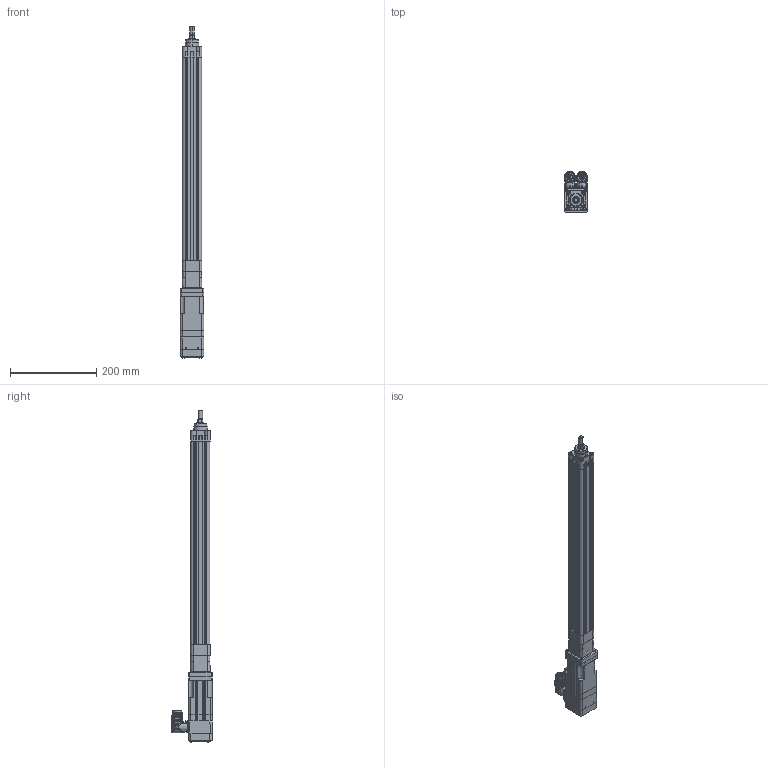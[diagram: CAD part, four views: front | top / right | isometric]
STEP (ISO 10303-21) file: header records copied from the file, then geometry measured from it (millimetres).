
FILE_DESCRIPTION((''),'2;1');
FILE_NAME('MPAR-X1400E-V2A_ASM','2009-04-15T',('dperuma'),('Rockwell Automation'),'PRO/ENGINEER BY PARAMETRIC TECHNOLOGY CORPORATION, 2004490','PRO/ENGINEER BY PARAMETRIC TECHNOLOGY CORPORATION, 2004490','');
FILE_SCHEMA(('CONFIG_CONTROL_DESIGN'));
Length unit declared in the file: millimetre
Products named in the file (45): PRT0005-543122; PRT0006-543122; 627360_627364_ASM; 627462; 627457; 627453; CA33127-020-0_1; EPF-CA30591-0_1; IMPORT-1113_1; IMPORT-1114_1; IMPORT-1115_1; EPF-CA28084-0_ASM_1_ASM; MPG-FASTNER-1116_1; MPG-FASTNER-1117_1; MPG-FASTNER-1118_1; MPG-FASTNER-1119_1; EPF-CA28083-0_ASM_1_ASM; DIN912-2-5-006-0_1; MPG-FASTNER-1122_1; MPG-FASTNER-1123_1; EPF-C08363-0_ASM_1_ASM; EPF-C08459-001-0_1; G4X2L20-0_ASM_1_ASM; B1530-HSG_1; EPF-B47940-001A_1; IMPORT-1106_1; MANIFOLD_SOLID_BREP_45981; MANIFOLD_SOLID_BREP_46020; MANIFOLD_SOLID_BREP_46059; MANIFOLD_SOLID_BREP_46098; MANIFOLD_SOLID_BREP_46137; MANIFOLD_SOLID_BREP_46176; MANIFOLD_SOLID_BREP_46215; MANIFOLD_SOLID_BREP_46254; IMPORT-1107_1_ASM; IMPORT-1108_1; A73229-002_D_ASM_1_ASM; EPF-CA30891-0_1; DIN912-003-012-_1; 0011-G402_1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
Assembly tree (67 placements, depth 6):
  MPAR-X1400E-V2A_ASM
    627360_627364_ASM
      PRT0005-543122
      PRT0006-543122
    627462
    627457
    627453
    MPL-1530-J42AA_ASM
      MPL-1530-J42AA-INST_ASM_1_ASM
        G4X2L20-0_ASM_1_ASM
          CA33127-020-0_1
          EPF-CA30591-0_1
          EPF-CA28084-0_ASM_1_ASM
            IMPORT-1113_1
            IMPORT-1114_1
            IMPORT-1115_1
          EPF-CA28083-0_ASM_1_ASM
            MPG-FASTNER-1116_1
            MPG-FASTNER-1117_1
            MPG-FASTNER-1118_1
            MPG-FASTNER-1119_1
          DIN912-2-5-006-0_1  x8
          EPF-C08363-0_ASM_1_ASM  x4
            MPG-FASTNER-1122_1
            MPG-FASTNER-1123_1
          EPF-C08459-001-0_1  x8
        B1530-HSG_1
        EPF-B47940-001A_1
        A73229-002_D_ASM_1_ASM
          IMPORT-1106_1
          IMPORT-1107_1_ASM
            MANIFOLD_SOLID_BREP_45981
            MANIFOLD_SOLID_BREP_46020
            MANIFOLD_SOLID_BREP_46059
            MANIFOLD_SOLID_BREP_46098
            MANIFOLD_SOLID_BREP_46137
            MANIFOLD_SOLID_BREP_46176
            MANIFOLD_SOLID_BREP_46215
            MANIFOLD_SOLID_BREP_46254
          IMPORT-1108_1
        EPF-CA30891-0_1
        DIN912-003-012-_1  x4
        0011-G402_1
        CA31994-0-INST_1
        EPF-DIN7985-003-020-0_1  x4
Bounding box: 55.03 x 94 x 770.69 mm (x, y, z)
Volume: 1173627.8 mm3; surface area: 363333.9 mm2
Topology: 61 solids, 66 shells, 3195 faces, 8263 edges, 5216 vertices
Faces by surface type: cylinder 1363, plane 979, cone 521, torus 194, bspline 74, sphere 64
Entity records: 92392 total; most frequent: CARTESIAN_POINT 25964, DIRECTION 14038, ORIENTED_EDGE 13700, EDGE_CURVE 6854, AXIS2_PLACEMENT_3D 5486, VERTEX_POINT 4452, VECTOR 3066, LINE 3066
